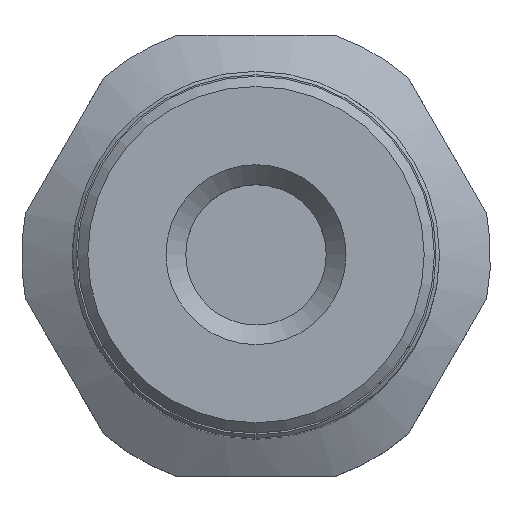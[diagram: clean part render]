
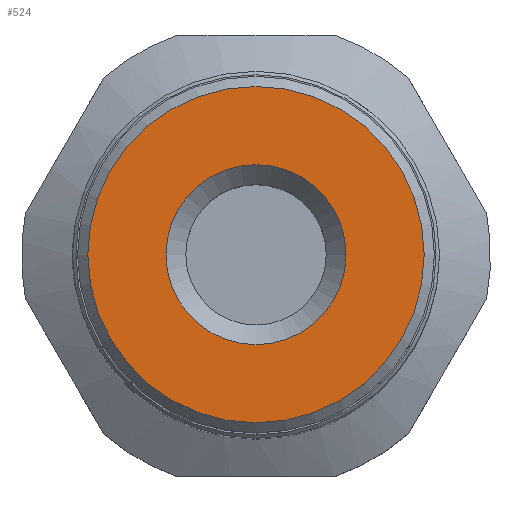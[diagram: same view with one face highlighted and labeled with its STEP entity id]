
A CAD part, top view. The second image highlights one B-rep face of the part: STEP entity #524.
In plain terms, the highlighted planar face has unit normal (0, 0, 1).
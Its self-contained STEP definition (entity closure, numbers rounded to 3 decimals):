
#68=PLANE('',#591);
#93=FACE_BOUND('',#176,.T.);
#94=FACE_BOUND('',#177,.T.);
#176=EDGE_LOOP('',(#460));
#177=EDGE_LOOP('',(#461));
#224=CIRCLE('',#586,2.65);
#227=CIRCLE('',#592,4.95);
#270=VERTEX_POINT('',#920);
#273=VERTEX_POINT('',#929);
#337=EDGE_CURVE('',#270,#270,#224,.T.);
#340=EDGE_CURVE('',#273,#273,#227,.T.);
#460=ORIENTED_EDGE('',*,*,#337,.T.);
#461=ORIENTED_EDGE('',*,*,#340,.F.);
#524=ADVANCED_FACE('',(#93,#94),#68,.T.);
#586=AXIS2_PLACEMENT_3D('',#921,#719,#720);
#591=AXIS2_PLACEMENT_3D('',#928,#729,#730);
#592=AXIS2_PLACEMENT_3D('',#930,#731,#732);
#719=DIRECTION('center_axis',(0.,0.,-1.));
#720=DIRECTION('ref_axis',(1.,0.,0.));
#729=DIRECTION('center_axis',(0.,0.,1.));
#730=DIRECTION('ref_axis',(1.,0.,0.));
#731=DIRECTION('center_axis',(0.,0.,-1.));
#732=DIRECTION('ref_axis',(1.,0.,0.));
#920=CARTESIAN_POINT('',(2.65,0.,11.1));
#921=CARTESIAN_POINT('Origin',(0.,0.,11.1));
#928=CARTESIAN_POINT('Origin',(0.,4.95,11.1));
#929=CARTESIAN_POINT('',(0.,4.95,11.1));
#930=CARTESIAN_POINT('Origin',(0.,0.,11.1));
